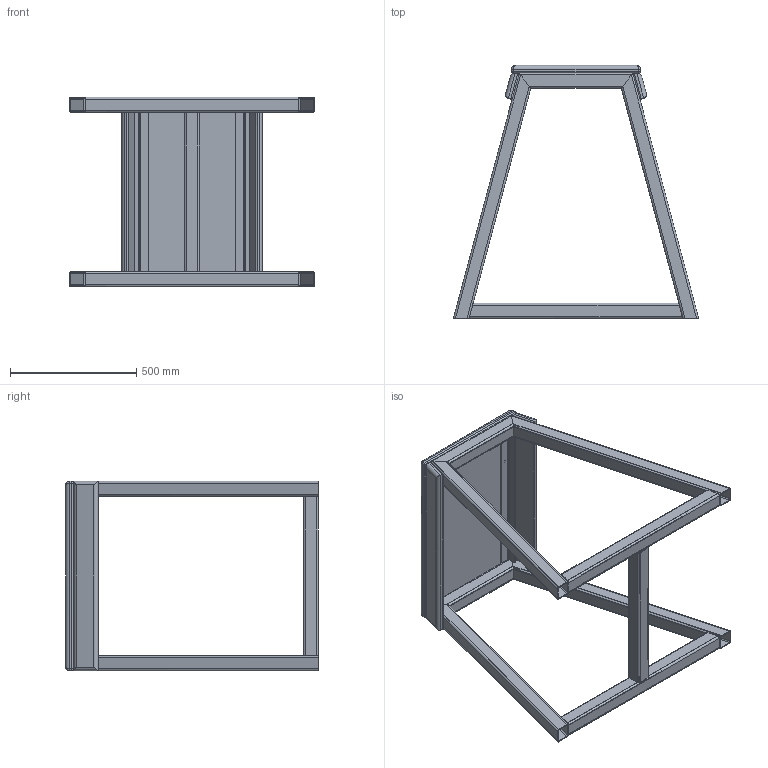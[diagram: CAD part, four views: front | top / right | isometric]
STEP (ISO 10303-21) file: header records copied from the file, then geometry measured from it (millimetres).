
FILE_DESCRIPTION(/* description */ (''),/* implementation_level */ '2;1');
FILE_NAME(/* name */ 'OGPB1000_3D_Low.step',/* time_stamp */ '2025-11-11T16:10:46+02:00',/* author */ (''),/* organization */ (''),/* preprocessor_version */ 'ST-DEVELOPER v20.1',/* originating_system */ 'Autodesk Translation Framework v14.21.0.0',/* authorisation */ '');
FILE_SCHEMA (('AUTOMOTIVE_DESIGN { 1 0 10303 214 3 1 1 }'));
Length unit declared in the file: millimetre
Products named in the file (1): OGPB1000_3D_Low
Bounding box: 969.81 x 999.98 x 750 mm (x, y, z)
Volume: 21982110.2 mm3; surface area: 4396118.7 mm2
Topology: 14 solids, 14 shells, 272 faces, 660 edges, 420 vertices
Faces by surface type: plane 140, cylinder 124, bspline 8
Full cylindrical faces by diameter (mm): 8.5 x8, 11 x4, 11.5 x8
Entity records: 8230 total; most frequent: CARTESIAN_POINT 1569, DIRECTION 1422, ORIENTED_EDGE 1312, EDGE_CURVE 656, AXIS2_PLACEMENT_3D 501, LINE 420, VECTOR 420, VERTEX_POINT 420
